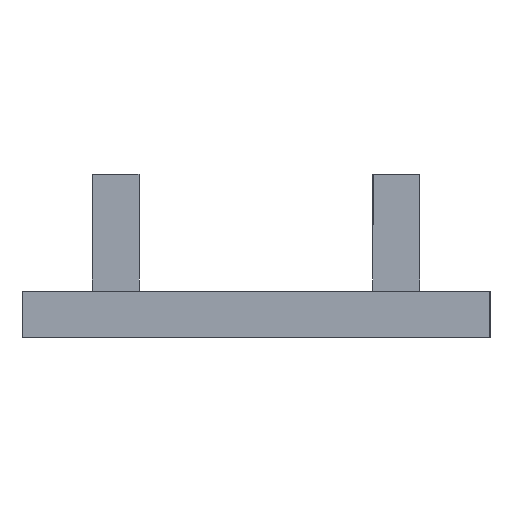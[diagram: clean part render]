
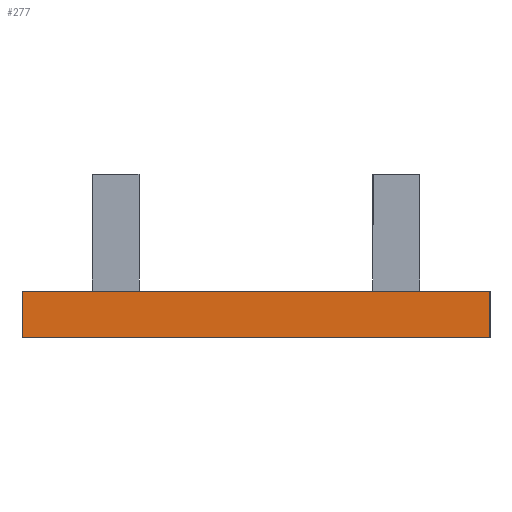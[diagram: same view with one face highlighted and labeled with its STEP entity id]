
A CAD part, left-side view. The second image highlights one B-rep face of the part: STEP entity #277.
In plain terms, the highlighted planar face has unit normal (-1, 0, 0).
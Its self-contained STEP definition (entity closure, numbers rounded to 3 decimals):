
#3 = CARTESIAN_POINT ( 'NONE',  ( -78.5, 30., 2. ) ) ;
#16 = LINE ( 'NONE', #643, #522 ) ;
#20 = EDGE_LOOP ( 'NONE', ( #580, #505, #130, #610 ) ) ;
#51 = DIRECTION ( 'NONE',  ( 0., -1., 0. ) ) ;
#62 = LINE ( 'NONE', #3, #78 ) ;
#73 = EDGE_CURVE ( 'NONE', #414, #270, #713, .T. ) ;
#74 = PLANE ( 'NONE',  #688 ) ;
#78 = VECTOR ( 'NONE', #280, 1000. ) ;
#118 = LINE ( 'NONE', #208, #260 ) ;
#130 = ORIENTED_EDGE ( 'NONE', *, *, #73, .F. ) ;
#143 = DIRECTION ( 'NONE',  ( 0., 0., -1. ) ) ;
#171 = VERTEX_POINT ( 'NONE', #266 ) ;
#180 = DIRECTION ( 'NONE',  ( 1., 0., 0. ) ) ;
#208 = CARTESIAN_POINT ( 'NONE',  ( -78.5, 30., 0. ) ) ;
#217 = EDGE_CURVE ( 'NONE', #171, #358, #118, .T. ) ;
#234 = EDGE_CURVE ( 'NONE', #414, #171, #62, .T. ) ;
#242 = FACE_OUTER_BOUND ( 'NONE', #20, .T. ) ;
#246 = DIRECTION ( 'NONE',  ( 0., -1., 0. ) ) ;
#250 = CARTESIAN_POINT ( 'NONE',  ( -78.5, 30., 2. ) ) ;
#260 = VECTOR ( 'NONE', #51, 1000. ) ;
#266 = CARTESIAN_POINT ( 'NONE',  ( -78.5, 30., 0. ) ) ;
#270 = VERTEX_POINT ( 'NONE', #633 ) ;
#274 = EDGE_CURVE ( 'NONE', #270, #358, #16, .T. ) ;
#277 = ADVANCED_FACE ( 'NONE', ( #242 ), #74, .F. ) ;
#280 = DIRECTION ( 'NONE',  ( 0., 0., -1. ) ) ;
#355 = VECTOR ( 'NONE', #246, 1000. ) ;
#358 = VERTEX_POINT ( 'NONE', #423 ) ;
#410 = DIRECTION ( 'NONE',  ( 0., 0., -1. ) ) ;
#414 = VERTEX_POINT ( 'NONE', #724 ) ;
#423 = CARTESIAN_POINT ( 'NONE',  ( -78.5, 10., 0. ) ) ;
#463 = CARTESIAN_POINT ( 'NONE',  ( -78.5, 30., 2. ) ) ;
#505 = ORIENTED_EDGE ( 'NONE', *, *, #274, .F. ) ;
#522 = VECTOR ( 'NONE', #143, 1000. ) ;
#580 = ORIENTED_EDGE ( 'NONE', *, *, #217, .T. ) ;
#610 = ORIENTED_EDGE ( 'NONE', *, *, #234, .T. ) ;
#633 = CARTESIAN_POINT ( 'NONE',  ( -78.5, 10., 2. ) ) ;
#643 = CARTESIAN_POINT ( 'NONE',  ( -78.5, 10., 2. ) ) ;
#688 = AXIS2_PLACEMENT_3D ( 'NONE', #463, #180, #410 ) ;
#713 = LINE ( 'NONE', #250, #355 ) ;
#724 = CARTESIAN_POINT ( 'NONE',  ( -78.5, 30., 2. ) ) ;
